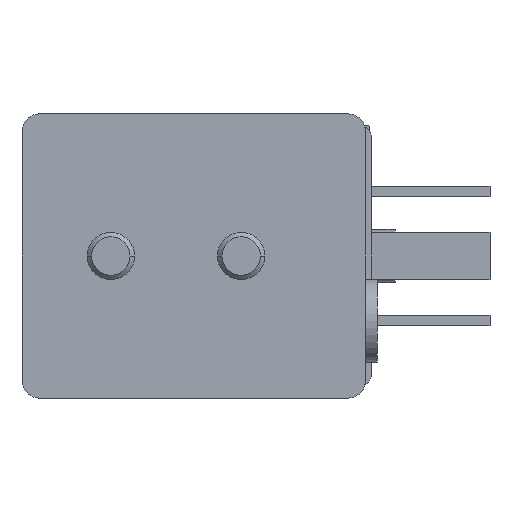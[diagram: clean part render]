
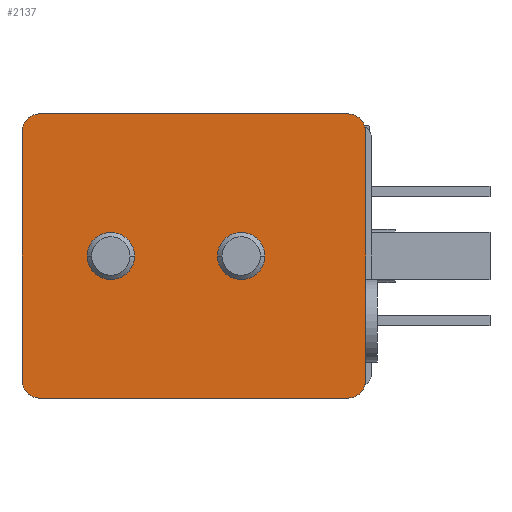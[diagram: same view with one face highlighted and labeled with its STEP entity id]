
A CAD part, front view. The second image highlights one B-rep face of the part: STEP entity #2137.
In plain terms, the highlighted planar face has unit normal (0, -1, 0).
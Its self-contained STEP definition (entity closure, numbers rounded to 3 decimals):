
#25=DIRECTION('',(1.,0.,0.));
#26=VECTOR('',#25,26.);
#27=CARTESIAN_POINT('',(1.5,0.,-12.));
#28=LINE('',#27,#26);
#69=CARTESIAN_POINT('',(18.5,0.,0.));
#70=DIRECTION('',(0.,-1.,0.));
#71=DIRECTION('',(1.,0.,0.));
#72=AXIS2_PLACEMENT_3D('',#69,#70,#71);
#74=CARTESIAN_POINT('',(18.5,0.,0.));
#75=DIRECTION('',(0.,-1.,0.));
#76=DIRECTION('',(-1.,0.,0.));
#77=AXIS2_PLACEMENT_3D('',#74,#75,#76);
#79=CARTESIAN_POINT('',(7.5,0.,0.));
#80=DIRECTION('',(0.,-1.,0.));
#81=DIRECTION('',(1.,0.,0.));
#82=AXIS2_PLACEMENT_3D('',#79,#80,#81);
#84=CARTESIAN_POINT('',(7.5,0.,0.));
#85=DIRECTION('',(0.,-1.,0.));
#86=DIRECTION('',(-1.,0.,0.));
#87=AXIS2_PLACEMENT_3D('',#84,#85,#86);
#89=CARTESIAN_POINT('',(27.5,0.,10.5));
#90=DIRECTION('',(0.,-1.,0.));
#91=DIRECTION('',(1.,0.,0.));
#92=AXIS2_PLACEMENT_3D('',#89,#90,#91);
#94=CARTESIAN_POINT('',(27.5,0.,-10.5));
#95=DIRECTION('',(0.,-1.,0.));
#96=DIRECTION('',(0.,0.,-1.));
#97=AXIS2_PLACEMENT_3D('',#94,#95,#96);
#99=CARTESIAN_POINT('',(1.5,0.,-10.5));
#100=DIRECTION('',(0.,-1.,0.));
#101=DIRECTION('',(-1.,0.,0.));
#102=AXIS2_PLACEMENT_3D('',#99,#100,#101);
#104=DIRECTION('',(0.,0.,1.));
#105=VECTOR('',#104,21.);
#106=CARTESIAN_POINT('',(0.,0.,-10.5));
#107=LINE('',#106,#105);
#108=CARTESIAN_POINT('',(1.5,0.,10.5));
#109=DIRECTION('',(0.,-1.,0.));
#110=DIRECTION('',(0.,0.,1.));
#111=AXIS2_PLACEMENT_3D('',#108,#109,#110);
#189=DIRECTION('',(1.,0.,0.));
#190=VECTOR('',#189,26.);
#191=CARTESIAN_POINT('',(1.5,0.,12.));
#192=LINE('',#191,#190);
#1149=DIRECTION('',(0.,0.,1.));
#1150=VECTOR('',#1149,21.);
#1151=CARTESIAN_POINT('',(29.,0.,-10.5));
#1152=LINE('',#1151,#1150);
#1697=CARTESIAN_POINT('',(20.5,0.,0.));
#1698=CARTESIAN_POINT('',(16.5,0.,0.));
#1699=VERTEX_POINT('',#1697);
#1700=VERTEX_POINT('',#1698);
#1798=CARTESIAN_POINT('',(27.5,0.,-12.));
#1800=VERTEX_POINT('',#1798);
#1802=CARTESIAN_POINT('',(1.5,0.,-12.));
#1804=VERTEX_POINT('',#1802);
#1806=CARTESIAN_POINT('',(27.5,0.,12.));
#1808=VERTEX_POINT('',#1806);
#1810=CARTESIAN_POINT('',(1.5,0.,12.));
#1812=VERTEX_POINT('',#1810);
#1814=CARTESIAN_POINT('',(0.,0.,10.5));
#1816=VERTEX_POINT('',#1814);
#1818=CARTESIAN_POINT('',(0.,0.,-10.5));
#1820=VERTEX_POINT('',#1818);
#1821=CARTESIAN_POINT('',(29.,0.,10.5));
#1822=VERTEX_POINT('',#1821);
#1823=CARTESIAN_POINT('',(29.,0.,-10.5));
#1824=VERTEX_POINT('',#1823);
#1945=CARTESIAN_POINT('',(9.5,0.,0.));
#1946=CARTESIAN_POINT('',(5.5,0.,0.));
#1947=VERTEX_POINT('',#1945);
#1948=VERTEX_POINT('',#1946);
#2104=CARTESIAN_POINT('',(0.,0.,-12.));
#2105=DIRECTION('',(0.,-1.,0.));
#2106=DIRECTION('',(1.,0.,0.));
#2107=AXIS2_PLACEMENT_3D('',#2104,#2105,#2106);
#2108=PLANE('',#2107);
#2110=ORIENTED_EDGE('',*,*,#2109,.F.);
#2112=ORIENTED_EDGE('',*,*,#2111,.F.);
#2113=ORIENTED_EDGE('',*,*,#2095,.F.);
#2114=ORIENTED_EDGE('',*,*,#2060,.F.);
#2116=ORIENTED_EDGE('',*,*,#2115,.F.);
#2118=ORIENTED_EDGE('',*,*,#2117,.T.);
#2120=ORIENTED_EDGE('',*,*,#2119,.F.);
#2122=ORIENTED_EDGE('',*,*,#2121,.T.);
#2123=EDGE_LOOP('',(#2110,#2112,#2113,#2114,#2116,#2118,#2120,#2122));
#2124=FACE_OUTER_BOUND('',#2123,.F.);
#2126=ORIENTED_EDGE('',*,*,#2125,.T.);
#2128=ORIENTED_EDGE('',*,*,#2127,.T.);
#2129=EDGE_LOOP('',(#2126,#2128));
#2130=FACE_BOUND('',#2129,.F.);
#2132=ORIENTED_EDGE('',*,*,#2131,.T.);
#2134=ORIENTED_EDGE('',*,*,#2133,.T.);
#2135=EDGE_LOOP('',(#2132,#2134));
#2136=FACE_BOUND('',#2135,.F.);
#2137=ADVANCED_FACE('',(#2124,#2130,#2136),#2108,.T.);
#73=CIRCLE('',#72,2.);
#78=CIRCLE('',#77,2.);
#83=CIRCLE('',#82,2.);
#88=CIRCLE('',#87,2.);
#93=CIRCLE('',#92,1.5);
#98=CIRCLE('',#97,1.5);
#103=CIRCLE('',#102,1.5);
#112=CIRCLE('',#111,1.5);
#2060=EDGE_CURVE('',#1804,#1800,#28,.T.);
#2095=EDGE_CURVE('',#1800,#1824,#98,.T.);
#2109=EDGE_CURVE('',#1822,#1808,#93,.T.);
#2111=EDGE_CURVE('',#1824,#1822,#1152,.T.);
#2115=EDGE_CURVE('',#1820,#1804,#103,.T.);
#2117=EDGE_CURVE('',#1820,#1816,#107,.T.);
#2119=EDGE_CURVE('',#1812,#1816,#112,.T.);
#2121=EDGE_CURVE('',#1812,#1808,#192,.T.);
#2125=EDGE_CURVE('',#1947,#1948,#83,.T.);
#2127=EDGE_CURVE('',#1948,#1947,#88,.T.);
#2131=EDGE_CURVE('',#1699,#1700,#73,.T.);
#2133=EDGE_CURVE('',#1700,#1699,#78,.T.);
